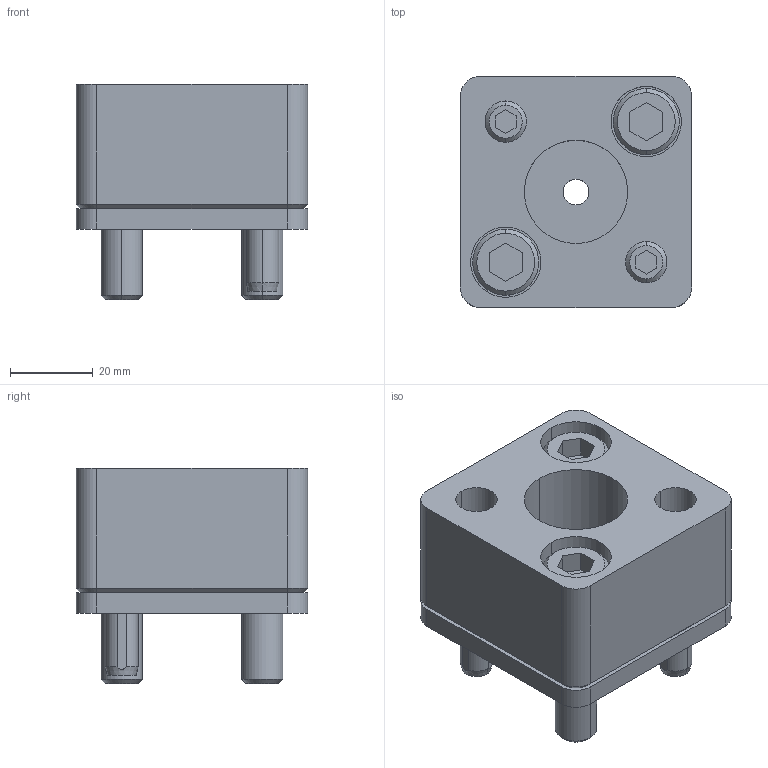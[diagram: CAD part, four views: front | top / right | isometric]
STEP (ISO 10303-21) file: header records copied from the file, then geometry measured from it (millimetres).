
FILE_DESCRIPTION(/* description */ (''),/* implementation_level */ '2;1');
FILE_NAME(/* name */ '3d_hsr-ap25_02781_r00.stp',/* time_stamp */ '2011-01-10T14:14:35+09:00',/* author */ ('MISUMI'),/* organization */ (''),/* preprocessor_version */ 'ST-DEVELOPER v11',/* originating_system */ 'UGS - NX 5.0',/* authorisation */ '');
FILE_SCHEMA (('CONFIG_CONTROL_DESIGN'));
Length unit declared in the file: millimetre
Products named in the file (1): 3d_hsr-ap25_02781_r00
Bounding box: 56 x 56 x 52 mm (x, y, z)
Volume: 91836.9 mm3; surface area: 32259.3 mm2
Topology: 8 solids, 8 shells, 163 faces, 362 edges, 230 vertices
Faces by surface type: plane 69, cylinder 64, cone 30
Entity records: 4678 total; most frequent: DIRECTION 840, CARTESIAN_POINT 816, ORIENTED_EDGE 724, EDGE_CURVE 362, AXIS2_PLACEMENT_3D 322, VERTEX_POINT 230, EDGE_LOOP 198, LINE 196
